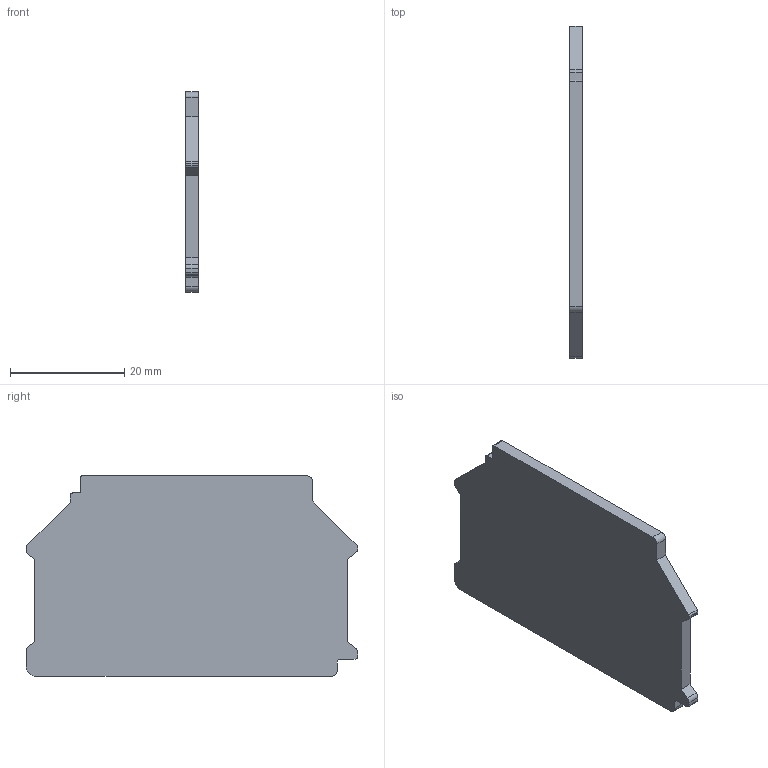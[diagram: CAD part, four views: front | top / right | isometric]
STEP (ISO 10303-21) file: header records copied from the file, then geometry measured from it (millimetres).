
FILE_DESCRIPTION( ('This file contains a STEP AP42 implementation' ,'as created by ZW3D STEP Interface translator.') ,'2;1' );
FILE_NAME( 'D-RUT4-HESI傷啣耀倰.stp' ,'23 613.145952', (''), ('ZWCAD Software Co.'), 'Version 1.0', 'ZW3D to STEP translator', '' );
FILE_SCHEMA(('AUTOMOTIVE_DESIGN { 1 0 10303 214 1 1 1 1 }'));
Length unit declared in the file: millimetre
Products named in the file (2): 0; D-RTB4-HESIÓëD-RUT4-HESI¶Ë°åÄ£ÐÍ
Bounding box: 2.2 x 58 x 35.05 mm (x, y, z)
Volume: 4025.6 mm3; surface area: 4050.3 mm2
Topology: 1 solids, 1 shells, 35 faces, 99 edges, 66 vertices
Faces by surface type: plane 22, cylinder 13
Entity records: 1204 total; most frequent: CARTESIAN_POINT 201, ORIENTED_EDGE 198, DIRECTION 197, EDGE_CURVE 99, VECTOR 73, LINE 73, VERTEX_POINT 66, AXIS2_PLACEMENT_3D 62
